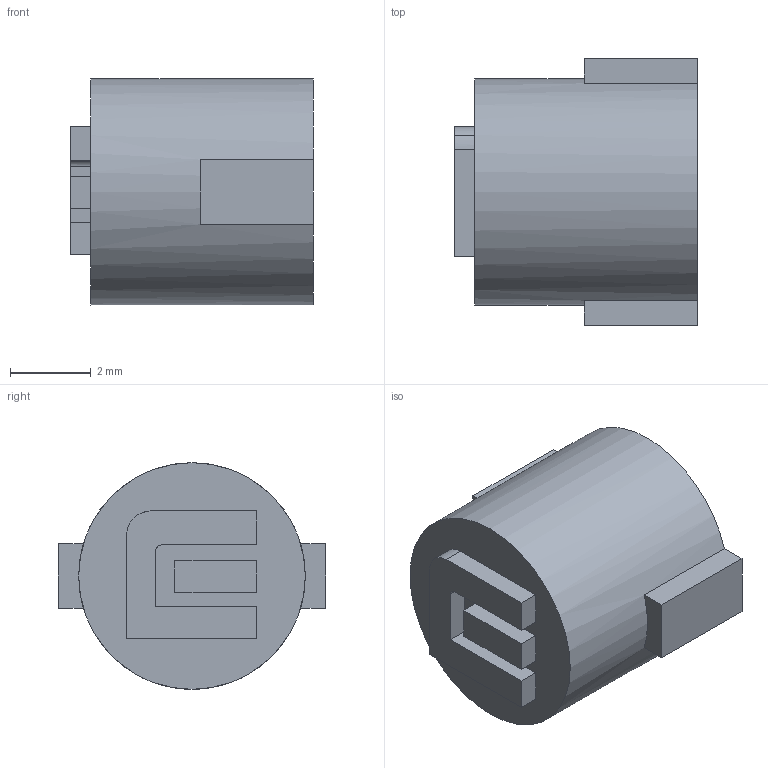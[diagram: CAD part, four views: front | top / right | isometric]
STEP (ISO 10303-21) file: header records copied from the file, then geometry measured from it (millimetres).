
FILE_DESCRIPTION(/* description */ (''),/* implementation_level */ '2;1');
FILE_NAME(/* name */ 'Button.step',/* time_stamp */ '2024-01-19T15:03:57-05:00',/* author */ (''),/* organization */ (''),/* preprocessor_version */ 'ST-DEVELOPER v20',/* originating_system */ 'Autodesk Translation Framework v12.14.0.127',/* authorisation */ '');
FILE_SCHEMA (('AUTOMOTIVE_DESIGN { 1 0 10303 214 3 1 1 }'));
Length unit declared in the file: millimetre
Products named in the file (2): PiWu; V2
Assembly tree (1 placements, depth 2):
  PiWu
    V2
Bounding box: 6 x 6.6 x 5.6 mm (x, y, z)
Volume: 144.2 mm3; surface area: 167.8 mm2
Topology: 1 solids, 1 shells, 29 faces, 75 edges, 50 vertices
Faces by surface type: plane 24, bspline 4, cylinder 1
Full cylindrical faces by diameter (mm): 5.6 x1
Entity records: 995 total; most frequent: CARTESIAN_POINT 263, ORIENTED_EDGE 150, DIRECTION 129, EDGE_CURVE 75, LINE 61, VECTOR 61, VERTEX_POINT 50, AXIS2_PLACEMENT_3D 34
